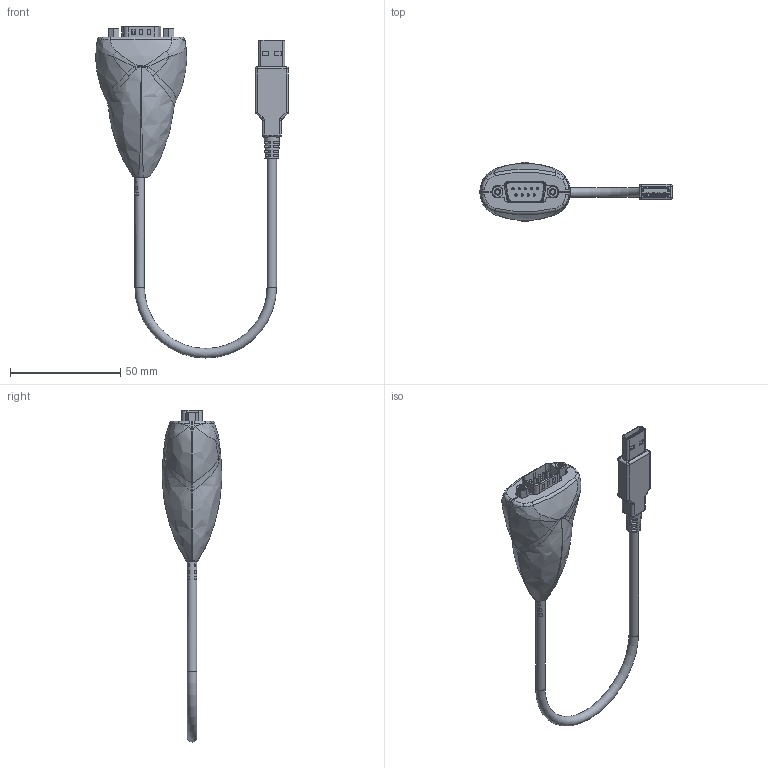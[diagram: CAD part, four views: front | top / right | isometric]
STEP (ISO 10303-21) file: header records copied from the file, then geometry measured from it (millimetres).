
FILE_DESCRIPTION(/* description */ (''),/* implementation_level */ '2;1');
FILE_NAME(/* name */ '/Users/leo/Desktop/Desktop - Leonardo’s MacBook Air/Coolgear May/USBG-232/UISBG-232 Model3D LPV1.step',/* time_stamp */ '2021-07-21T13:53:40-04:00',/* author */ (''),/* organization */ (''),/* preprocessor_version */ 'ST-DEVELOPER v18.1',/* originating_system */ 'Autodesk Translation Framework v10.9.0.1377',/* authorisation */ '');
FILE_SCHEMA (('AUTOMOTIVE_DESIGN { 1 0 10303 214 3 1 1 }'));
Products named in the file (1): FusionComponent
Bounding box: 87.46 x 27.02 x 150.74 mm (x, y, z)
Volume: 15954.8 mm3; surface area: 23409.1 mm2
Topology: 11 solids, 11 shells, 1125 faces, 2880 edges, 1753 vertices
Faces by surface type: plane 461, cylinder 379, bspline 156, torus 49, cone 45, sphere 35
Full cylindrical faces by diameter (mm): 0.9 x9, 1 x18, 1.5 x9, 2.015 x2, 2.02 x14, 2.845 x14, 2.998 x2, 3 x3, 3.25 x2, 3.643 x2, 4.3 x3, 4.4 x2
Entity records: 44552 total; most frequent: CARTESIAN_POINT 19310, ORIENTED_EDGE 5610, DIRECTION 4695, EDGE_CURVE 2805, VERTEX_POINT 1751, AXIS2_PLACEMENT_3D 1703, LINE 1289, VECTOR 1289
